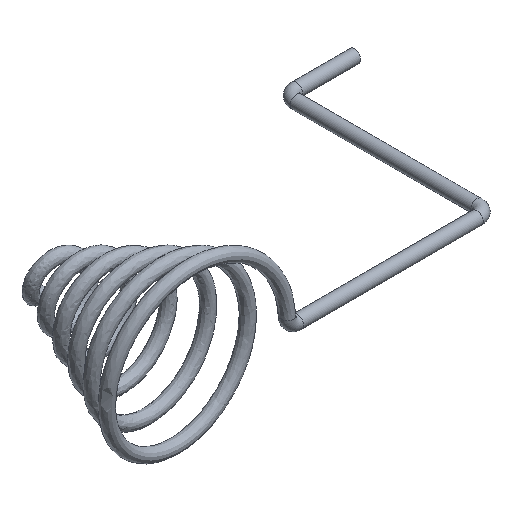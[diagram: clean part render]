
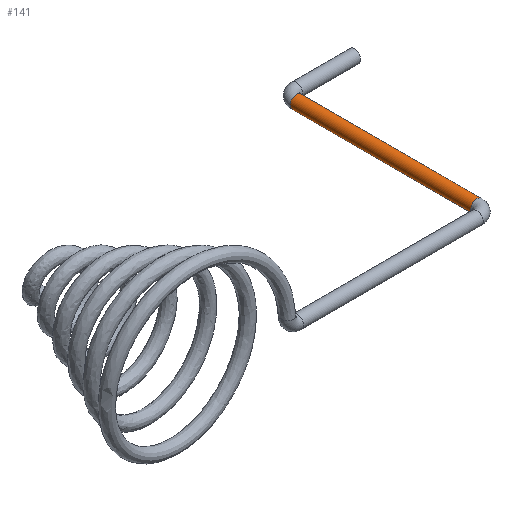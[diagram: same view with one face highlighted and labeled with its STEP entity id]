
A CAD part, isometric view. The second image highlights one B-rep face of the part: STEP entity #141.
In plain terms, the highlighted cylindrical face has radius 0.3 mm (diameter 0.6 mm), a full revolution.
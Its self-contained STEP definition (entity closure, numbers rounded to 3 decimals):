
#25=FACE_OUTER_BOUND('',#34,.T.);
#34=EDGE_LOOP('',(#104,#105,#106,#107,#108));
#41=LINE('',#252,#44);
#44=VECTOR('',#204,0.3);
#49=CIRCLE('',#167,0.3);
#50=CIRCLE('',#169,0.3);
#51=CIRCLE('',#170,0.3);
#64=VERTEX_POINT('',#247);
#65=VERTEX_POINT('',#251);
#66=VERTEX_POINT('',#253);
#79=EDGE_CURVE('',#64,#64,#49,.T.);
#80=EDGE_CURVE('',#64,#65,#41,.T.);
#81=EDGE_CURVE('',#65,#66,#50,.T.);
#82=EDGE_CURVE('',#66,#65,#51,.T.);
#104=ORIENTED_EDGE('',*,*,#79,.F.);
#105=ORIENTED_EDGE('',*,*,#80,.T.);
#106=ORIENTED_EDGE('',*,*,#81,.T.);
#107=ORIENTED_EDGE('',*,*,#82,.T.);
#108=ORIENTED_EDGE('',*,*,#80,.F.);
#136=CYLINDRICAL_SURFACE('',#168,0.3);
#141=ADVANCED_FACE('',(#25),#136,.T.);
#167=AXIS2_PLACEMENT_3D('',#249,#200,#201);
#168=AXIS2_PLACEMENT_3D('',#250,#202,#203);
#169=AXIS2_PLACEMENT_3D('',#254,#205,#206);
#170=AXIS2_PLACEMENT_3D('',#255,#207,#208);
#200=DIRECTION('center_axis',(0.,1.,0.));
#201=DIRECTION('ref_axis',(-1.,0.,0.));
#202=DIRECTION('center_axis',(0.,1.,0.));
#203=DIRECTION('ref_axis',(-1.,0.,0.));
#204=DIRECTION('',(0.,-1.,0.));
#205=DIRECTION('center_axis',(0.,1.,0.));
#206=DIRECTION('ref_axis',(-1.,0.,0.));
#207=DIRECTION('center_axis',(0.,1.,0.));
#208=DIRECTION('ref_axis',(-1.,0.,0.));
#247=CARTESIAN_POINT('',(14.1,9.2,-0.5));
#249=CARTESIAN_POINT('Origin',(13.8,9.2,-0.5));
#250=CARTESIAN_POINT('Origin',(13.8,0.5,-0.5));
#251=CARTESIAN_POINT('',(14.1,0.5,-0.5));
#252=CARTESIAN_POINT('',(14.1,0.5,-0.5));
#253=CARTESIAN_POINT('',(13.5,0.5,-0.5));
#254=CARTESIAN_POINT('Origin',(13.8,0.5,-0.5));
#255=CARTESIAN_POINT('Origin',(13.8,0.5,-0.5));
